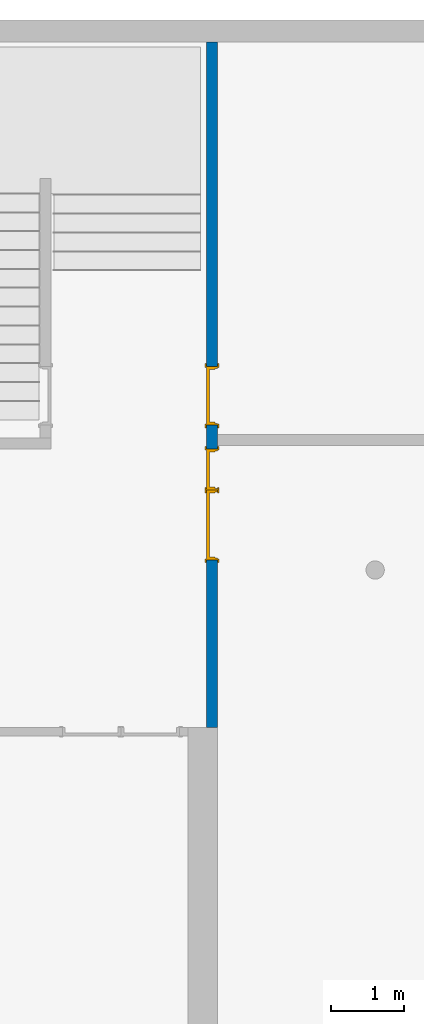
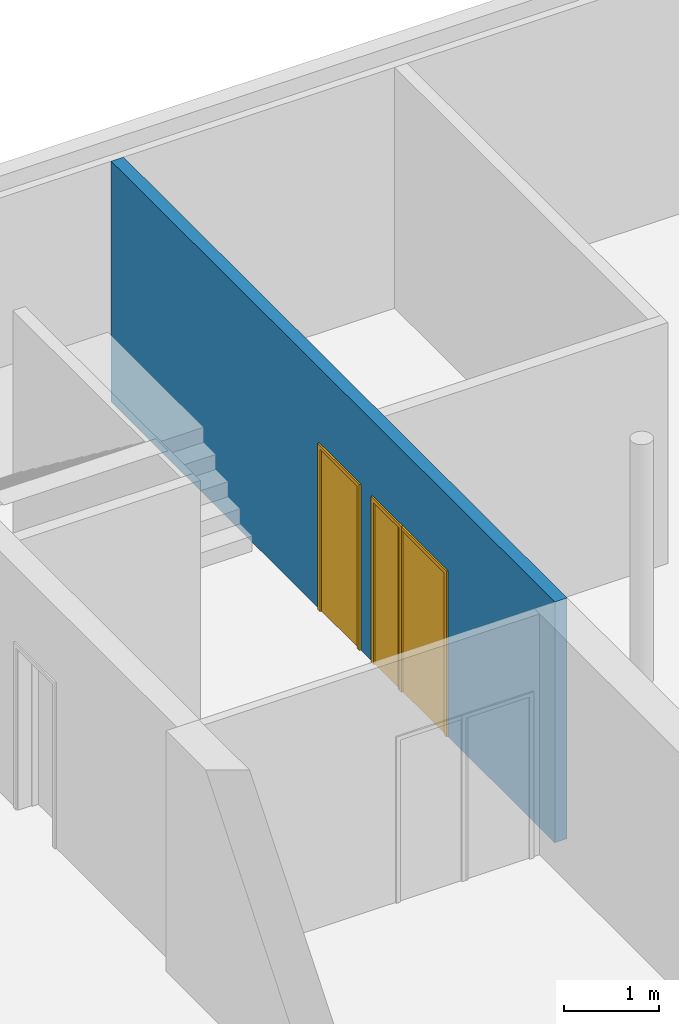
# One storey, part 8 of 25: 3 doors, 1 wall, 3 openings.
"""IFC2X3 building model written with IfcOpenShell, lengths in millimetres."""

from ifc_helpers import new_model, entity, si_unit, converted_unit, derived_unit, money_unit, direction, frame, origin_with_axes, place, context, subcontext, project, spatial, faceted_brep, source, transform, mapped, material, type_object, element, fill, save


model = new_model("IFC2X3")

# Units and contexts
model_context = context("Model", 3, precision=0.01, world=origin_with_axes(), true_north=direction((0.0, 1.0)))
body_context = subcontext(model_context, "Body", "Model", "MODEL_VIEW")
ifc_project = project(units=[si_unit("LENGTHUNIT", "METRE", prefix="MILLI"), si_unit("AREAUNIT", "SQUARE_METRE"), si_unit("VOLUMEUNIT", "CUBIC_METRE"), converted_unit("PLANEANGLEUNIT", "DEGREE", entity("IfcPlaneAngleMeasure", 0.0174532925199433), si_unit("PLANEANGLEUNIT", "RADIAN"), dimensions=[0, 0, 0, 0, 0, 0, 0]), money_unit("USD"), converted_unit("TIMEUNIT", "Year", entity("IfcTimeMeasure", 31557600.0), si_unit("TIMEUNIT", "SECOND"), dimensions=[0, 0, 1, 0, 0, 0, 0]), si_unit("MASSUNIT", "GRAM", prefix="KILO"), si_unit("THERMODYNAMICTEMPERATUREUNIT", "DEGREE_CELSIUS"), si_unit("LUMINOUSINTENSITYUNIT", "LUMEN"), si_unit("ENERGYUNIT", "JOULE", prefix="MEGA"), derived_unit("THERMALCONDUCTANCEUNIT", [(si_unit("POWERUNIT", "WATT"), 1), (si_unit("LENGTHUNIT", "METRE"), -1), (si_unit("THERMODYNAMICTEMPERATUREUNIT", "KELVIN"), -1)]), derived_unit("SPECIFICHEATCAPACITYUNIT", [(si_unit("ENERGYUNIT", "JOULE"), 1), (si_unit("MASSUNIT", "GRAM", prefix="KILO"), -1), (si_unit("THERMODYNAMICTEMPERATUREUNIT", "KELVIN"), -1)]), derived_unit("MASSDENSITYUNIT", [(si_unit("MASSUNIT", "GRAM", prefix="KILO"), 1), (si_unit("VOLUMEUNIT", "CUBIC_METRE"), -1)])], contexts=[model_context])

# Site, building, storey
site_placement = place(None, origin_with_axes())
site = spatial("IfcSite", under=ifc_project, at=site_placement, Name="Site", CompositionType="ELEMENT")
building_placement = place(site_placement, origin_with_axes())
building = spatial("IfcBuilding", under=site, at=building_placement, Name="Building", CompositionType="ELEMENT")
storey_placement = place(building_placement, origin_with_axes())
storey = spatial("IfcBuildingStorey", under=building, at=storey_placement, Name="U ETG", CompositionType="ELEMENT", Elevation=0.0)

# Wall, openings, doors
ifc_material = material(Name="GENERIC - INTERNAL FILLER")
wall_type = type_object("IfcWallType", Name="GENERIC - INTERNAL FILLER 150", PredefinedType="NOTDEFINED")
wall_placement = place(storey_placement, frame((24849.99999999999, 12349.5709291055, 0.0), z_axis=(0.0, 0.0, 1.0), x_axis=(0.0, 1.0, 0.0)))
wall = element("IfcWall", 1, at=wall_placement, inside=storey, type_object=wall_type, material=ifc_material, Name="SW - 001", context=body_context, shape_type="Brep", body=[
    faceted_brep([(3800.429070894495, 0.0, 2100.0), (3800.429070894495, 0.0, 0.0), (4126.562672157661, 0.0, 0.0), (4126.562672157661, 0.0, 2100.0), (4926.562672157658, 0.0, 2100.0), (4926.562672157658, 0.0, 0.0), (9350.429070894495, 0.0, 0.0), (9350.429070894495, 0.0, 3100.0), (0.0, 0.0, 3100.0), (0.0, 0.0, 0.0), (2289.664467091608, 0.0, 0.0), (2289.664467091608, 0.0, 2100.0), (3239.664467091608, 0.0, 2100.0), (3800.429070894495, 149.9999999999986, 2100.0), (3800.429070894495, 149.9999999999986, 0.0), (4126.562672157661, 149.9999999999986, 0.0), (4126.562672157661, 149.9999999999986, 2100.0), (4926.562672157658, 149.9999999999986, 2100.0), (4926.562672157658, 149.9999999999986, 0.0), (9350.429070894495, 149.9999999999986, 0.0), (9350.429070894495, 149.9999999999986, 3100.0), (0.0, 149.9999999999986, 3100.0), (0.0, 149.9999999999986, 0.0), (2289.664467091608, 149.9999999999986, 0.0), (2289.664467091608, 149.9999999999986, 2100.0), (3239.664467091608, 149.9999999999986, 2100.0)], [[[0, 1, 2, 3, 4, 5, 6, 7, 8, 9, 10, 11, 12]], [[1, 0, 13, 14]], [[1, 14, 15, 2]], [[15, 16, 3, 2]], [[16, 17, 4, 3]], [[17, 18, 5, 4]], [[19, 6, 5, 18]], [[20, 7, 6, 19]], [[20, 21, 8, 7]], [[9, 8, 21, 22]], [[10, 9, 22, 23]], [[10, 23, 24, 11]], [[25, 13, 0, 12, 11, 24]], [[13, 25, 24, 23, 22, 21, 20, 19, 18, 17, 16, 15, 14]]]),
])
opening_1_placement = place(wall_placement, frame((4526.562672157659, 0.0, 0.0), z_axis=(0.0, 0.0, 1.0), x_axis=(1.0, 0.0, 0.0)))
opening_1 = element("IfcOpeningElement", 2, at=opening_1_placement, cuts=wall, Name="DOO - 002", context=body_context, shape_type="Brep", body=[
    faceted_brep([(399.9999999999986, 149.9999999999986, 0.0), (399.9999999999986, 149.9999999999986, 2100.0), (399.9999999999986, 0.0, 2100.0), (399.9999999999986, 0.0, 0.0), (-399.9999999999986, 149.9999999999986, 2100.0), (437.0000000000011, 149.9999999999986, 0.0), (437.0000000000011, 149.9999999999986, 2137.0), (-437.0000000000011, 149.9999999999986, 2137.0), (-437.0000000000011, 149.9999999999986, 0.0), (-399.9999999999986, 149.9999999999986, 0.0), (-399.9999999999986, 0.0, 2100.0), (-399.9999999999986, 0.0, 0.0), (-437.0000000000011, 0.0, 0.0), (-437.0000000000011, 0.0, 2137.0), (437.0000000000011, 0.0, 2137.0), (437.0000000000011, 0.0, 0.0), (399.9999999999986, 150.9999999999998, 0.0), (399.9999999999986, -1.000000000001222, 0.0), (-399.9999999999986, -1.000000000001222, 0.0), (-399.9999999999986, 150.9999999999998, 0.0), (437.0000000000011, 150.9999999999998, 0.0), (437.0000000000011, 150.9999999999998, 2137.0), (-437.0000000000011, 150.9999999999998, 2137.0), (-437.0000000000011, 150.9999999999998, 0.0), (-437.0000000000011, -1.000000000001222, 0.0), (-437.0000000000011, -1.000000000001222, 2137.0), (437.0000000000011, -1.000000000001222, 2137.0), (437.0000000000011, -1.000000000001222, 0.0), (399.9999999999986, 150.9999999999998, 2100.0), (-399.9999999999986, 150.9999999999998, 2100.0)], [[[0, 1, 2, 3]], [[4, 1, 0, 5, 6, 7, 8, 9]], [[1, 4, 10, 2]], [[3, 2, 10, 11, 12, 13, 14, 15]], [[16, 0, 3, 17, 18, 11, 9, 19]], [[0, 16, 20, 5]], [[6, 5, 20, 21]], [[7, 6, 21, 22]], [[8, 7, 22, 23]], [[19, 9, 8, 23]], [[4, 9, 11, 10]], [[11, 18, 24, 12]], [[13, 12, 24, 25]], [[14, 13, 25, 26]], [[15, 14, 26, 27]], [[17, 3, 15, 27]], [[17, 27, 26, 25, 24, 18]], [[28, 16, 19, 29]], [[16, 28, 29, 19, 23, 22, 21, 20]]]),
])
opening_2_placement = place(wall_placement, frame((3520.046768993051, 0.0, 0.0), z_axis=(0.0, 0.0, 1.0), x_axis=(1.0, 0.0, 0.0)))
opening_2 = element("IfcOpeningElement", 3, at=opening_2_placement, cuts=wall, Name="DOO - 002", context=body_context, shape_type="Brep", body=[
    faceted_brep([(280.3823019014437, 149.9999999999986, 0.0), (280.3823019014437, 149.9999999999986, 2100.0), (280.3823019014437, 0.0, 2100.0), (280.3823019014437, 0.0, 0.0), (-280.3823019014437, 149.9999999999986, 2100.0), (317.3823019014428, 149.9999999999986, 0.0), (317.3823019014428, 149.9999999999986, 2137.0), (-317.3823019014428, 149.9999999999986, 2137.0), (-317.3823019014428, 149.9999999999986, 0.0), (-280.3823019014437, 149.9999999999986, 0.0), (-280.3823019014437, 0.0, 2100.0), (-280.3823019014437, 0.0, 0.0), (-317.3823019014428, 0.0, 0.0), (-317.3823019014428, 0.0, 2137.0), (317.3823019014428, 0.0, 2137.0), (317.3823019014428, 0.0, 0.0), (280.3823019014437, 150.9999999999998, 0.0), (280.3823019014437, -1.000000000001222, 0.0), (-280.3823019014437, -1.000000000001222, 0.0), (-280.3823019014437, 150.9999999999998, 0.0), (317.3823019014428, 150.9999999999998, 0.0), (317.3823019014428, 150.9999999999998, 2137.0), (-317.3823019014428, 150.9999999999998, 2137.0), (-317.3823019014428, 150.9999999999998, 0.0), (-317.3823019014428, -1.000000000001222, 0.0), (-317.3823019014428, -1.000000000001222, 2137.0), (317.3823019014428, -1.000000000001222, 2137.0), (317.3823019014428, -1.000000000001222, 0.0), (280.3823019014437, 150.9999999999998, 2100.0), (-280.3823019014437, 150.9999999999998, 2100.0)], [[[0, 1, 2, 3]], [[4, 1, 0, 5, 6, 7, 8, 9]], [[1, 4, 10, 2]], [[3, 2, 10, 11, 12, 13, 14, 15]], [[16, 0, 3, 17, 18, 11, 9, 19]], [[0, 16, 20, 5]], [[6, 5, 20, 21]], [[7, 6, 21, 22]], [[8, 7, 22, 23]], [[19, 9, 8, 23]], [[4, 9, 11, 10]], [[11, 18, 24, 12]], [[13, 12, 24, 25]], [[14, 13, 25, 26]], [[15, 14, 26, 27]], [[17, 3, 15, 27]], [[17, 27, 26, 25, 24, 18]], [[28, 16, 19, 29]], [[16, 28, 29, 19, 23, 22, 21, 20]]]),
])
opening_3_placement = place(wall_placement, frame((2764.664467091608, 0.0, 0.0), z_axis=(0.0, 0.0, 1.0), x_axis=(1.0, 0.0, 0.0)))
opening_3 = element("IfcOpeningElement", 4, at=opening_3_placement, cuts=wall, Name="DOO - 002", context=body_context, shape_type="Brep", body=[
    faceted_brep([(474.9999999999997, 149.9999999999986, 0.0), (474.9999999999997, 149.9999999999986, 2100.0), (474.9999999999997, 0.0, 2100.0), (474.9999999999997, 0.0, 0.0), (-474.9999999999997, 149.9999999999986, 2100.0), (511.9999999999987, 149.9999999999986, 0.0), (511.9999999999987, 149.9999999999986, 2137.0), (-511.9999999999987, 149.9999999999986, 2137.0), (-511.9999999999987, 149.9999999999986, 0.0), (-474.9999999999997, 149.9999999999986, 0.0), (-474.9999999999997, 0.0, 2100.0), (-474.9999999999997, 0.0, 0.0), (-511.9999999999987, 0.0, 0.0), (-511.9999999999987, 0.0, 2137.0), (511.9999999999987, 0.0, 2137.0), (511.9999999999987, 0.0, 0.0), (474.9999999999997, 150.9999999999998, 0.0), (474.9999999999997, -1.000000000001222, 0.0), (-474.9999999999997, -1.000000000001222, 0.0), (-474.9999999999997, 150.9999999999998, 0.0), (511.9999999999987, 150.9999999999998, 0.0), (511.9999999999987, 150.9999999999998, 2137.0), (-511.9999999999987, 150.9999999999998, 2137.0), (-511.9999999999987, 150.9999999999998, 0.0), (-511.9999999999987, -1.000000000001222, 0.0), (-511.9999999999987, -1.000000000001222, 2137.0), (511.9999999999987, -1.000000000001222, 2137.0), (511.9999999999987, -1.000000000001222, 0.0), (474.9999999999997, 150.9999999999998, 2100.0), (-474.9999999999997, 150.9999999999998, 2100.0)], [[[0, 1, 2, 3]], [[4, 1, 0, 5, 6, 7, 8, 9]], [[1, 4, 10, 2]], [[3, 2, 10, 11, 12, 13, 14, 15]], [[16, 0, 3, 17, 18, 11, 9, 19]], [[0, 16, 20, 5]], [[6, 5, 20, 21]], [[7, 6, 21, 22]], [[8, 7, 22, 23]], [[19, 9, 8, 23]], [[4, 9, 11, 10]], [[11, 18, 24, 12]], [[13, 12, 24, 25]], [[14, 13, 25, 26]], [[15, 14, 26, 27]], [[17, 3, 15, 27]], [[17, 27, 26, 25, 24, 18]], [[28, 16, 19, 29]], [[16, 28, 29, 19, 23, 22, 21, 20]]]),
])
door_style_1 = type_object("IfcDoorStyle", Name="Dør", ConstructionType="NOTDEFINED", OperationType="SINGLE_SWING_RIGHT", ParameterTakesPrecedence=False, Sizeable=False)
shared_shape_1 = source(origin_with_axes(), body_context, "Body", "Brep", [
    faceted_brep([(-400.0, -115.0, 0.0), (-375.0, -115.0, 0.0), (-375.0, -150.0, 0.0), (-400.0, -150.0, 0.0), (-400.0, -115.0000000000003, 2100.0), (-375.0, -115.0000000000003, 2075.0), (-375.0, -150.0000000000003, 2075.0), (-400.0, -150.0000000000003, 2100.0)], [[[0, 1, 2, 3]], [[0, 4, 5, 1]], [[1, 5, 6, 2]], [[3, 2, 6, 7]], [[4, 0, 3, 7]], [[5, 4, 7, 6]]]),
    faceted_brep([(400.0, -115.0000000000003, 2100.0), (375.0, -115.0000000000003, 2075.0), (375.0, -150.0000000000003, 2075.0), (400.0, -150.0000000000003, 2100.0), (400.0, -115.0, 0.0), (375.0, -115.0, 0.0), (375.0, -150.0, 0.0), (400.0, -150.0, 0.0)], [[[0, 1, 2, 3]], [[0, 4, 5, 1]], [[1, 5, 6, 2]], [[3, 2, 6, 7]], [[4, 0, 3, 7]], [[5, 4, 7, 6]]]),
    faceted_brep([(-375.0, -115.0000000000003, 2075.0), (375.0, -115.0000000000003, 2075.0), (375.0, -150.0000000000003, 2075.0), (-375.0, -150.0000000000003, 2075.0), (-400.0, -115.0000000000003, 2100.0), (400.0, -115.0000000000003, 2100.0), (400.0, -150.0000000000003, 2100.0), (-400.0, -150.0000000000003, 2100.0)], [[[0, 1, 2, 3]], [[0, 4, 5, 1]], [[1, 5, 6, 2]], [[3, 2, 6, 7]], [[4, 0, 3, 7]], [[5, 4, 7, 6]]]),
    faceted_brep([(-437.0, -169.0, 0.0), (-437.0, -150.0, 0.0), (-387.0, -150.0, 0.0), (-387.0, -169.0, 0.0), (-437.0, -169.0000000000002, 2137.0), (-437.0, -150.0000000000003, 2137.0), (-387.0, -150.0000000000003, 2087.0), (-387.0, -169.0000000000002, 2087.0)], [[[0, 1, 2, 3]], [[4, 5, 1, 0]], [[1, 5, 6, 2]], [[3, 2, 6, 7]], [[0, 3, 7, 4]], [[7, 6, 5, 4]]]),
    faceted_brep([(437.0, -169.0000000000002, 2137.0), (437.0, -150.0000000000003, 2137.0), (387.0, -150.0000000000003, 2087.0), (387.0, -169.0000000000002, 2087.0), (437.0, -169.0, 0.0), (437.0, -150.0, 0.0), (387.0, -150.0, 0.0), (387.0, -169.0, 0.0)], [[[0, 1, 2, 3]], [[4, 5, 1, 0]], [[1, 5, 6, 2]], [[3, 2, 6, 7]], [[0, 3, 7, 4]], [[7, 6, 5, 4]]]),
    faceted_brep([(-437.0, -169.0000000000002, 2137.0), (-437.0, -150.0000000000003, 2137.0), (-387.0, -150.0000000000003, 2087.0), (-387.0, -169.0000000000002, 2087.0), (437.0, -169.0000000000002, 2137.0), (437.0, -150.0000000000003, 2137.0), (387.0, -150.0000000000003, 2087.0), (387.0, -169.0000000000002, 2087.0)], [[[0, 1, 2, 3]], [[4, 5, 1, 0]], [[1, 5, 6, 2]], [[3, 2, 6, 7]], [[0, 3, 7, 4]], [[7, 6, 5, 4]]]),
    faceted_brep([(-437.0, 19.0, 0.0), (-387.0, 19.0, 0.0), (-387.0, 0.0, 0.0), (-437.0, 0.0, 0.0), (-437.0, 18.99999999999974, 2137.0), (-387.0, 18.99999999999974, 2087.0), (-387.0, 0.0, 2087.0), (-437.0, 0.0, 2137.0)], [[[0, 1, 2, 3]], [[0, 4, 5, 1]], [[1, 5, 6, 2]], [[3, 2, 6, 7]], [[4, 0, 3, 7]], [[5, 4, 7, 6]]]),
    faceted_brep([(437.0, 18.99999999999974, 2137.0), (387.0, 18.99999999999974, 2087.0), (387.0, 0.0, 2087.0), (437.0, 0.0, 2137.0), (437.0, 19.0, 0.0), (387.0, 19.0, 0.0), (387.0, 0.0, 0.0), (437.0, 0.0, 0.0)], [[[0, 1, 2, 3]], [[0, 4, 5, 1]], [[1, 5, 6, 2]], [[3, 2, 6, 7]], [[4, 0, 3, 7]], [[5, 4, 7, 6]]]),
    faceted_brep([(-437.0000000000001, 18.99999999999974, 2137.0), (-387.0, 18.99999999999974, 2087.0), (-387.0, 0.0, 2087.0), (-437.0000000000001, 0.0, 2137.0), (437.0000000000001, 18.99999999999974, 2137.0), (387.0, 18.99999999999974, 2087.0), (387.0, 0.0, 2087.0), (437.0000000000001, 0.0, 2137.0)], [[[0, 1, 2, 3]], [[0, 4, 5, 1]], [[1, 5, 6, 2]], [[3, 2, 6, 7]], [[4, 0, 3, 7]], [[5, 4, 7, 6]]]),
    faceted_brep([(-400.0, 0.0, 0.0), (-360.0000000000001, 0.0, 0.0), (-360.0000000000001, -115.0, 0.0), (-400.0, -115.0, 0.0), (-400.0, 0.0, 2060.0), (-360.0000000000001, 0.0, 2060.0), (-360.0000000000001, -115.0, 2060.0), (-400.0, -115.0, 2060.0)], [[[0, 1, 2, 3]], [[0, 4, 5, 1]], [[1, 5, 6, 2]], [[3, 2, 6, 7]], [[4, 0, 3, 7]], [[5, 4, 7, 6]]]),
    faceted_brep([(400.0, 0.0, 0.0), (400.0, 0.0, 2060.0), (400.0, -115.0, 2060.0), (400.0, -115.0, 0.0), (360.0000000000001, 0.0, 0.0), (360.0000000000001, 0.0, 2060.0), (360.0000000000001, -115.0, 2060.0), (360.0000000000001, -115.0, 0.0)], [[[0, 1, 2, 3]], [[0, 4, 5, 1]], [[1, 5, 6, 2]], [[3, 2, 6, 7]], [[4, 0, 3, 7]], [[5, 4, 7, 6]]]),
    faceted_brep([(-400.0, 0.0, 2100.0), (-400.0, 0.0, 2060.0), (-400.0, -115.0, 2060.0), (-400.0, -115.0, 2100.0), (400.0, 0.0, 2100.0), (400.0, 0.0, 2060.0), (360.0000000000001, 0.0, 2060.0), (-360.0000000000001, 0.0, 2060.0), (-360.0000000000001, -115.0, 2060.0), (360.0000000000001, -115.0, 2060.0), (400.0, -115.0, 2060.0), (400.0, -115.0, 2100.0)], [[[0, 1, 2, 3]], [[0, 4, 5, 6, 7, 1]], [[1, 7, 8, 2]], [[3, 2, 8, 9, 10, 11]], [[4, 0, 3, 11]], [[5, 4, 11, 10]], [[6, 5, 10, 9]], [[7, 6, 9, 8]]]),
    faceted_brep([(359.9999999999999, 0.0, 0.0), (359.9999999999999, -40.0, 0.0), (-360.0000000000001, -40.0, 0.0), (-360.0000000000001, 0.0, 0.0), (359.9999999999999, 0.0, 2060.0), (359.9999999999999, -40.00000000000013, 2060.0), (-360.0000000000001, -40.00000000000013, 2060.0), (-360.0000000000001, 0.0, 2060.0)], [[[0, 1, 2, 3]], [[4, 5, 1, 0]], [[1, 5, 6, 2]], [[3, 2, 6, 7]], [[0, 3, 7, 4]], [[7, 6, 5, 4]]]),
])
door_1_placement = place(opening_1_placement, frame((-399.9999999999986, 0.0, 0.0), z_axis=(0.0, 0.0, 1.0), x_axis=(1.0, 0.0, 0.0)))
door_1 = element("IfcDoor", 5, at=door_1_placement, inside=storey, type_object=door_style_1, Name="DOO - 002", ObjectType="DOOR", OverallHeight=2100.0, OverallWidth=800.0, context=body_context, shape_type="MappedRepresentation", body=[
    mapped(shared_shape_1, transform((399.9999999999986, 149.9999999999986, 0.0))),
])
fill(opening_1, door_1)
door_style_2 = type_object("IfcDoorStyle", Name="Dør", ConstructionType="NOTDEFINED", OperationType="SINGLE_SWING_LEFT", ParameterTakesPrecedence=False, Sizeable=False)
shared_shape_2 = source(origin_with_axes(), body_context, "Body", "Brep", [
    faceted_brep([(474.9999999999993, -115.0, 0.0), (474.9999999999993, -150.0, 0.0), (449.9999999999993, -150.0, 0.0), (449.9999999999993, -115.0, 0.0), (474.9999999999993, -115.0000000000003, 2100.0), (474.9999999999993, -150.0000000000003, 2100.0), (449.9999999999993, -150.0000000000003, 2075.0), (449.9999999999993, -115.0000000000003, 2075.0)], [[[0, 1, 2, 3]], [[4, 5, 1, 0]], [[1, 5, 6, 2]], [[3, 2, 6, 7]], [[0, 3, 7, 4]], [[7, 6, 5, 4]]]),
    faceted_brep([(-474.9999999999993, -115.0000000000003, 2100.0), (-474.9999999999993, -150.0000000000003, 2100.0), (-449.9999999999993, -150.0000000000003, 2075.0), (-449.9999999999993, -115.0000000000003, 2075.0), (-474.9999999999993, -115.0, 0.0), (-474.9999999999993, -150.0, 0.0), (-449.9999999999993, -150.0, 0.0), (-449.9999999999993, -115.0, 0.0)], [[[0, 1, 2, 3]], [[4, 5, 1, 0]], [[1, 5, 6, 2]], [[3, 2, 6, 7]], [[0, 3, 7, 4]], [[7, 6, 5, 4]]]),
    faceted_brep([(449.9999999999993, -115.0000000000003, 2075.0), (449.9999999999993, -150.0000000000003, 2075.0), (-449.9999999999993, -150.0000000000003, 2075.0), (-449.9999999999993, -115.0000000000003, 2075.0), (474.9999999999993, -115.0000000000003, 2100.0), (474.9999999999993, -150.0000000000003, 2100.0), (-474.9999999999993, -150.0000000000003, 2100.0), (-474.9999999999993, -115.0000000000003, 2100.0)], [[[0, 1, 2, 3]], [[4, 5, 1, 0]], [[1, 5, 6, 2]], [[3, 2, 6, 7]], [[0, 3, 7, 4]], [[7, 6, 5, 4]]]),
    faceted_brep([(511.9999999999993, -169.0, 0.0), (461.9999999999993, -169.0, 0.0), (461.9999999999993, -150.0, 0.0), (511.9999999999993, -150.0, 0.0), (511.9999999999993, -169.0000000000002, 2137.0), (461.9999999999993, -169.0000000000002, 2087.0), (461.9999999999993, -150.0000000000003, 2087.0), (511.9999999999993, -150.0000000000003, 2137.0)], [[[0, 1, 2, 3]], [[0, 4, 5, 1]], [[1, 5, 6, 2]], [[3, 2, 6, 7]], [[4, 0, 3, 7]], [[5, 4, 7, 6]]]),
    faceted_brep([(-511.9999999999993, -169.0000000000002, 2137.0), (-461.9999999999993, -169.0000000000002, 2087.0), (-461.9999999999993, -150.0000000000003, 2087.0), (-511.9999999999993, -150.0000000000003, 2137.0), (-511.9999999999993, -169.0, 0.0), (-461.9999999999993, -169.0, 0.0), (-461.9999999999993, -150.0, 0.0), (-511.9999999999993, -150.0, 0.0)], [[[0, 1, 2, 3]], [[0, 4, 5, 1]], [[1, 5, 6, 2]], [[3, 2, 6, 7]], [[4, 0, 3, 7]], [[5, 4, 7, 6]]]),
    faceted_brep([(511.9999999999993, -169.0000000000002, 2137.0), (461.9999999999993, -169.0000000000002, 2087.0), (461.9999999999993, -150.0000000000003, 2087.0), (511.9999999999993, -150.0000000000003, 2137.0), (-511.9999999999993, -169.0000000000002, 2137.0), (-461.9999999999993, -169.0000000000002, 2087.0), (-461.9999999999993, -150.0000000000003, 2087.0), (-511.9999999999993, -150.0000000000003, 2137.0)], [[[0, 1, 2, 3]], [[0, 4, 5, 1]], [[1, 5, 6, 2]], [[3, 2, 6, 7]], [[4, 0, 3, 7]], [[5, 4, 7, 6]]]),
    faceted_brep([(511.9999999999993, 19.0, 0.0), (511.9999999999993, 0.0, 0.0), (461.9999999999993, 0.0, 0.0), (461.9999999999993, 19.0, 0.0), (511.9999999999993, 18.99999999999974, 2137.0), (511.9999999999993, 0.0, 2137.0), (461.9999999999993, 0.0, 2087.0), (461.9999999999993, 18.99999999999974, 2087.0)], [[[0, 1, 2, 3]], [[4, 5, 1, 0]], [[1, 5, 6, 2]], [[3, 2, 6, 7]], [[0, 3, 7, 4]], [[7, 6, 5, 4]]]),
    faceted_brep([(-511.9999999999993, 18.99999999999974, 2137.0), (-511.9999999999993, 0.0, 2137.0), (-461.9999999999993, 0.0, 2087.0), (-461.9999999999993, 18.99999999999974, 2087.0), (-511.9999999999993, 19.0, 0.0), (-511.9999999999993, 0.0, 0.0), (-461.9999999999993, 0.0, 0.0), (-461.9999999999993, 19.0, 0.0)], [[[0, 1, 2, 3]], [[4, 5, 1, 0]], [[1, 5, 6, 2]], [[3, 2, 6, 7]], [[0, 3, 7, 4]], [[7, 6, 5, 4]]]),
    faceted_brep([(511.9999999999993, 18.99999999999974, 2137.0), (511.9999999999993, 0.0, 2137.0), (461.9999999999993, 0.0, 2087.0), (461.9999999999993, 18.99999999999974, 2087.0), (-511.9999999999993, 18.99999999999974, 2137.0), (-511.9999999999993, 0.0, 2137.0), (-461.9999999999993, 0.0, 2087.0), (-461.9999999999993, 18.99999999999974, 2087.0)], [[[0, 1, 2, 3]], [[4, 5, 1, 0]], [[1, 5, 6, 2]], [[3, 2, 6, 7]], [[0, 3, 7, 4]], [[7, 6, 5, 4]]]),
    faceted_brep([(474.9999999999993, 0.0, 0.0), (474.9999999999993, -115.0, 0.0), (434.9999999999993, -115.0, 0.0), (434.9999999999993, 0.0, 0.0), (474.9999999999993, 0.0, 2060.0), (474.9999999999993, -115.0, 2060.0), (434.9999999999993, -115.0, 2060.0), (434.9999999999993, 0.0, 2060.0)], [[[0, 1, 2, 3]], [[4, 5, 1, 0]], [[1, 5, 6, 2]], [[3, 2, 6, 7]], [[0, 3, 7, 4]], [[7, 6, 5, 4]]]),
    faceted_brep([(-474.9999999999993, 0.0, 0.0), (-474.9999999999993, -115.0, 0.0), (-474.9999999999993, -115.0, 2060.0), (-474.9999999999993, 0.0, 2060.0), (-434.9999999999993, 0.0, 0.0), (-434.9999999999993, -115.0, 0.0), (-434.9999999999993, -115.0, 2060.0), (-434.9999999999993, 0.0, 2060.0)], [[[0, 1, 2, 3]], [[4, 5, 1, 0]], [[1, 5, 6, 2]], [[3, 2, 6, 7]], [[0, 3, 7, 4]], [[7, 6, 5, 4]]]),
    faceted_brep([(474.9999999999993, 0.0, 2100.0), (474.9999999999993, -115.0, 2100.0), (474.9999999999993, -115.0, 2060.0), (474.9999999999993, 0.0, 2060.0), (-474.9999999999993, 0.0, 2100.0), (-474.9999999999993, -115.0, 2100.0), (-474.9999999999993, -115.0, 2060.0), (-434.9999999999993, -115.0, 2060.0), (434.9999999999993, -115.0, 2060.0), (434.9999999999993, 0.0, 2060.0), (-434.9999999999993, 0.0, 2060.0), (-474.9999999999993, 0.0, 2060.0)], [[[0, 1, 2, 3]], [[4, 5, 1, 0]], [[1, 5, 6, 7, 8, 2]], [[3, 2, 8, 9]], [[0, 3, 9, 10, 11, 4]], [[11, 6, 5, 4]], [[10, 7, 6, 11]], [[9, 8, 7, 10]]]),
    faceted_brep([(-434.9999999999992, 0.0, 0.0), (434.9999999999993, 0.0, 0.0), (434.9999999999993, -40.0, 0.0), (-434.9999999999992, -40.0, 0.0), (-434.9999999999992, 0.0, 2060.0), (434.9999999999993, 0.0, 2060.0), (434.9999999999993, -40.00000000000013, 2060.0), (-434.9999999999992, -40.00000000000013, 2060.0)], [[[0, 1, 2, 3]], [[0, 4, 5, 1]], [[1, 5, 6, 2]], [[3, 2, 6, 7]], [[4, 0, 3, 7]], [[5, 4, 7, 6]]]),
])
door_2_placement = place(opening_3_placement, frame((-474.9999999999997, 0.0, 0.0), z_axis=(0.0, 0.0, 1.0), x_axis=(1.0, 0.0, 0.0)))
door_2 = element("IfcDoor", 6, at=door_2_placement, inside=storey, type_object=door_style_2, Name="DOO - 002", ObjectType="DOOR", OverallHeight=2100.0, OverallWidth=950.0, context=body_context, shape_type="MappedRepresentation", body=[
    mapped(shared_shape_2, transform((474.9999999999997, 149.9999999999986, 0.0))),
])
fill(opening_3, door_2)
shared_shape_3 = source(origin_with_axes(), body_context, "Body", "Brep", [
    faceted_brep([(-280.3823019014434, -115.0, 0.0), (-255.3823019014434, -115.0, 0.0), (-255.3823019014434, -150.0, 0.0), (-280.3823019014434, -150.0, 0.0), (-280.3823019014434, -115.0000000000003, 2100.0), (-255.3823019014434, -115.0000000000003, 2075.0), (-255.3823019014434, -150.0000000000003, 2075.0), (-280.3823019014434, -150.0000000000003, 2100.0)], [[[0, 1, 2, 3]], [[0, 4, 5, 1]], [[1, 5, 6, 2]], [[3, 2, 6, 7]], [[4, 0, 3, 7]], [[5, 4, 7, 6]]]),
    faceted_brep([(280.3823019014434, -115.0000000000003, 2100.0), (255.3823019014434, -115.0000000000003, 2075.0), (255.3823019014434, -150.0000000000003, 2075.0), (280.3823019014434, -150.0000000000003, 2100.0), (280.3823019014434, -115.0, 0.0), (255.3823019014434, -115.0, 0.0), (255.3823019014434, -150.0, 0.0), (280.3823019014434, -150.0, 0.0)], [[[0, 1, 2, 3]], [[0, 4, 5, 1]], [[1, 5, 6, 2]], [[3, 2, 6, 7]], [[4, 0, 3, 7]], [[5, 4, 7, 6]]]),
    faceted_brep([(-255.3823019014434, -115.0000000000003, 2075.0), (255.3823019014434, -115.0000000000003, 2075.0), (255.3823019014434, -150.0000000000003, 2075.0), (-255.3823019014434, -150.0000000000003, 2075.0), (-280.3823019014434, -115.0000000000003, 2100.0), (280.3823019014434, -115.0000000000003, 2100.0), (280.3823019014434, -150.0000000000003, 2100.0), (-280.3823019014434, -150.0000000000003, 2100.0)], [[[0, 1, 2, 3]], [[0, 4, 5, 1]], [[1, 5, 6, 2]], [[3, 2, 6, 7]], [[4, 0, 3, 7]], [[5, 4, 7, 6]]]),
    faceted_brep([(-317.3823019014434, -169.0, 0.0), (-317.3823019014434, -150.0, 0.0), (-267.3823019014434, -150.0, 0.0), (-267.3823019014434, -169.0, 0.0), (-317.3823019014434, -169.0000000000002, 2137.0), (-317.3823019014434, -150.0000000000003, 2137.0), (-267.3823019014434, -150.0000000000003, 2087.0), (-267.3823019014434, -169.0000000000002, 2087.0)], [[[0, 1, 2, 3]], [[4, 5, 1, 0]], [[1, 5, 6, 2]], [[3, 2, 6, 7]], [[0, 3, 7, 4]], [[7, 6, 5, 4]]]),
    faceted_brep([(317.3823019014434, -169.0000000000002, 2137.0), (317.3823019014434, -150.0000000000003, 2137.0), (267.3823019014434, -150.0000000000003, 2087.0), (267.3823019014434, -169.0000000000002, 2087.0), (317.3823019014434, -169.0, 0.0), (317.3823019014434, -150.0, 0.0), (267.3823019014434, -150.0, 0.0), (267.3823019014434, -169.0, 0.0)], [[[0, 1, 2, 3]], [[4, 5, 1, 0]], [[1, 5, 6, 2]], [[3, 2, 6, 7]], [[0, 3, 7, 4]], [[7, 6, 5, 4]]]),
    faceted_brep([(-317.3823019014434, -169.0000000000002, 2137.0), (-317.3823019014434, -150.0000000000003, 2137.0), (-267.3823019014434, -150.0000000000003, 2087.0), (-267.3823019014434, -169.0000000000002, 2087.0), (317.3823019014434, -169.0000000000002, 2137.0), (317.3823019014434, -150.0000000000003, 2137.0), (267.3823019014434, -150.0000000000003, 2087.0), (267.3823019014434, -169.0000000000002, 2087.0)], [[[0, 1, 2, 3]], [[4, 5, 1, 0]], [[1, 5, 6, 2]], [[3, 2, 6, 7]], [[0, 3, 7, 4]], [[7, 6, 5, 4]]]),
    faceted_brep([(-317.3823019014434, 19.0, 0.0), (-267.3823019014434, 19.0, 0.0), (-267.3823019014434, 0.0, 0.0), (-317.3823019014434, 0.0, 0.0), (-317.3823019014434, 18.99999999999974, 2137.0), (-267.3823019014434, 18.99999999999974, 2087.0), (-267.3823019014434, 0.0, 2087.0), (-317.3823019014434, 0.0, 2137.0)], [[[0, 1, 2, 3]], [[0, 4, 5, 1]], [[1, 5, 6, 2]], [[3, 2, 6, 7]], [[4, 0, 3, 7]], [[5, 4, 7, 6]]]),
    faceted_brep([(317.3823019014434, 18.99999999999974, 2137.0), (267.3823019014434, 18.99999999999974, 2087.0), (267.3823019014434, 0.0, 2087.0), (317.3823019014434, 0.0, 2137.0), (317.3823019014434, 19.0, 0.0), (267.3823019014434, 19.0, 0.0), (267.3823019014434, 0.0, 0.0), (317.3823019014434, 0.0, 0.0)], [[[0, 1, 2, 3]], [[0, 4, 5, 1]], [[1, 5, 6, 2]], [[3, 2, 6, 7]], [[4, 0, 3, 7]], [[5, 4, 7, 6]]]),
    faceted_brep([(-317.3823019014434, 18.99999999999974, 2137.0), (-267.3823019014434, 18.99999999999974, 2087.0), (-267.3823019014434, 0.0, 2087.0), (-317.3823019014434, 0.0, 2137.0), (317.3823019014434, 18.99999999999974, 2137.0), (267.3823019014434, 18.99999999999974, 2087.0), (267.3823019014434, 0.0, 2087.0), (317.3823019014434, 0.0, 2137.0)], [[[0, 1, 2, 3]], [[0, 4, 5, 1]], [[1, 5, 6, 2]], [[3, 2, 6, 7]], [[4, 0, 3, 7]], [[5, 4, 7, 6]]]),
    faceted_brep([(-280.3823019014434, 0.0, 0.0), (-240.3823019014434, 0.0, 0.0), (-240.3823019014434, -115.0, 0.0), (-280.3823019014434, -115.0, 0.0), (-280.3823019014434, 0.0, 2060.0), (-240.3823019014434, 0.0, 2060.0), (-240.3823019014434, -115.0, 2060.0), (-280.3823019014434, -115.0, 2060.0)], [[[0, 1, 2, 3]], [[0, 4, 5, 1]], [[1, 5, 6, 2]], [[3, 2, 6, 7]], [[4, 0, 3, 7]], [[5, 4, 7, 6]]]),
    faceted_brep([(280.3823019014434, 0.0, 0.0), (280.3823019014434, 0.0, 2060.0), (280.3823019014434, -115.0, 2060.0), (280.3823019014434, -115.0, 0.0), (240.3823019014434, 0.0, 0.0), (240.3823019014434, 0.0, 2060.0), (240.3823019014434, -115.0, 2060.0), (240.3823019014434, -115.0, 0.0)], [[[0, 1, 2, 3]], [[0, 4, 5, 1]], [[1, 5, 6, 2]], [[3, 2, 6, 7]], [[4, 0, 3, 7]], [[5, 4, 7, 6]]]),
    faceted_brep([(-280.3823019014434, 0.0, 2100.0), (-280.3823019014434, 0.0, 2060.0), (-280.3823019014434, -115.0, 2060.0), (-280.3823019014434, -115.0, 2100.0), (280.3823019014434, 0.0, 2100.0), (280.3823019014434, 0.0, 2060.0), (240.3823019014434, 0.0, 2060.0), (-240.3823019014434, 0.0, 2060.0), (-240.3823019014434, -115.0, 2060.0), (240.3823019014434, -115.0, 2060.0), (280.3823019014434, -115.0, 2060.0), (280.3823019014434, -115.0, 2100.0)], [[[0, 1, 2, 3]], [[0, 4, 5, 6, 7, 1]], [[1, 7, 8, 2]], [[3, 2, 8, 9, 10, 11]], [[4, 0, 3, 11]], [[5, 4, 11, 10]], [[6, 5, 10, 9]], [[7, 6, 9, 8]]]),
    faceted_brep([(240.3823019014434, 0.0, 0.0), (240.3823019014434, -40.0, 0.0), (-240.3823019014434, -40.0, 0.0), (-240.3823019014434, 0.0, 0.0), (240.3823019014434, 0.0, 2060.0), (240.3823019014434, -40.00000000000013, 2060.0), (-240.3823019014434, -40.00000000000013, 2060.0), (-240.3823019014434, 0.0, 2060.0)], [[[0, 1, 2, 3]], [[4, 5, 1, 0]], [[1, 5, 6, 2]], [[3, 2, 6, 7]], [[0, 3, 7, 4]], [[7, 6, 5, 4]]]),
])
door_3_placement = place(opening_2_placement, frame((-280.3823019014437, 0.0, 0.0), z_axis=(0.0, 0.0, 1.0), x_axis=(1.0, 0.0, 0.0)))
door_3 = element("IfcDoor", 7, at=door_3_placement, inside=storey, type_object=door_style_1, Name="DOO - 002", ObjectType="DOOR", OverallHeight=2100.0, OverallWidth=560.765, context=body_context, shape_type="MappedRepresentation", body=[
    mapped(shared_shape_3, transform((280.3823019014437, 149.9999999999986, 0.0))),
])
fill(opening_2, door_3)

save(model, "model.ifc")
